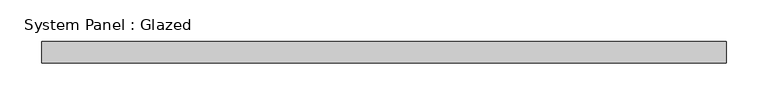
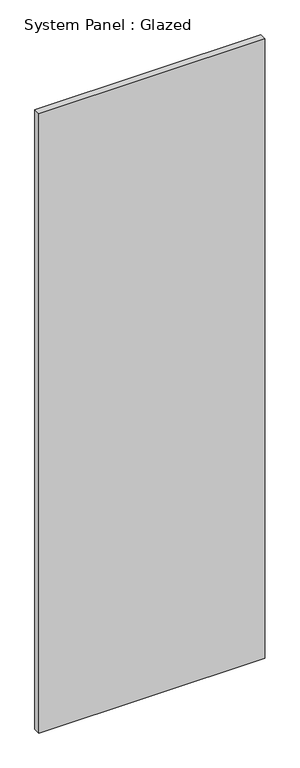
"""IFC4 building model written with IfcOpenShell, lengths in millimetres: plate geometry, System Panel : Glazed."""

from ifc_helpers import new_model, si_unit, origin, origin_with_axes, place, context, project, spatial, polyline, outline, extrude, source, transform, mapped, element, save


def system_panel_glazed_f449fc8c(model_context):
    return source(origin(), model_context, "Body", "SweptSolid", [
        extrude(outline(polyline([(409.575, -44.45), (-409.575, -44.45), (-409.575, -19.05), (409.575, -19.05), (409.575, -44.45)])), origin_with_axes(), (0.0, 0.0, 1.0), 2374.9),
    ])


if __name__ == "__main__":
    model = new_model("IFC4")
    model_context = context("Model", 3, world=origin())
    ifc_project = project(units=[si_unit("LENGTHUNIT", "METRE", prefix="MILLI")], contexts=[model_context])
    site = spatial("IfcSite", under=ifc_project)
    building = spatial("IfcBuilding", under=site)
    placement = place(None, origin())
    system_panel_glazed_shape = system_panel_glazed_f449fc8c(model_context)
    element("IfcPlate", 1, ObjectType="System Panel : Glazed", at=placement, inside=building, context=model_context, shape_type="MappedRepresentation", body=[
        mapped(system_panel_glazed_shape, transform((0.0, 0.0, 0.0), x_axis=(1.0, 0.0, 0.0), y_axis=(0.0, 1.0, 0.0), z_axis=(0.0, 0.0, 1.0))),
    ])
    save(model, "model.ifc")
